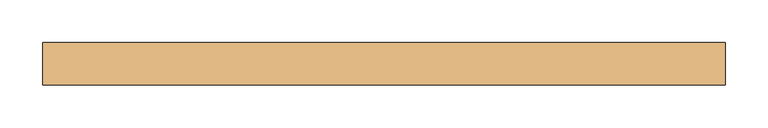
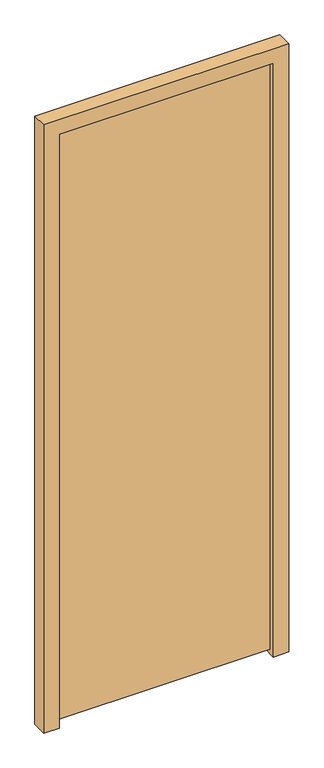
"""IFC4 building model written with IfcOpenShell, lengths in millimetres: door geometry, Dr_Дверь_v2.1 : ДВДГ 21-8_выполняется собственником."""

from ifc_helpers import new_model, si_unit, frame, origin, place, context, project, spatial, polyline, outline, extrude, source, transform, mapped, element, save


def door_2b45e898(model_context):
    return source(origin(), model_context, "Body", "SweptSolid", [
        extrude(outline(polyline([(0.0, -275.0), (0.0, -225.0), (2050.0, -225.0), (2050.0, 475.0), (0.0, 475.0), (0.0, 525.0), (2100.0, 525.0), (2100.0, -275.0), (0.0, -275.0)])), frame((0.0, 55.0, 0.0), z_axis=(0.0, 1.0, 0.0), x_axis=(0.0, 0.0, 1.0)), (0.0, 0.0, 1.0), 50.0),
        extrude(outline(polyline([(-225.0, 75.0), (-225.0, 105.0), (475.0, 105.0), (475.0, 75.0), (-225.0, 75.0)])), frame((0.0, 0.0, 14.0), z_axis=(0.0, 0.0, 1.0), x_axis=(1.0, 0.0, 0.0)), (0.0, 0.0, 1.0), 2036.0),
    ])


if __name__ == "__main__":
    model = new_model("IFC4")
    model_context = context("Model", 3, world=origin())
    ifc_project = project(units=[si_unit("LENGTHUNIT", "METRE", prefix="MILLI")], contexts=[model_context])
    site = spatial("IfcSite", under=ifc_project)
    building = spatial("IfcBuilding", under=site)
    placement = place(None, origin())
    door_shape = door_2b45e898(model_context)
    element("IfcDoor", 1, ObjectType="Dr_Дверь_v2.1 : ДВДГ 21-8_выполняется собственником", at=placement, inside=building, context=model_context, shape_type="MappedRepresentation", body=[
        mapped(door_shape, transform((0.0, 0.0, 0.0), x_axis=(1.0, 0.0, 0.0), y_axis=(0.0, 1.0, 0.0), z_axis=(0.0, 0.0, 1.0))),
    ])
    save(model, "model.ifc")
